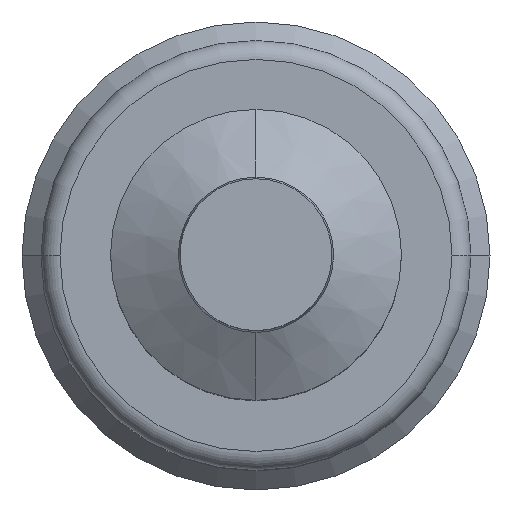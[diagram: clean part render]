
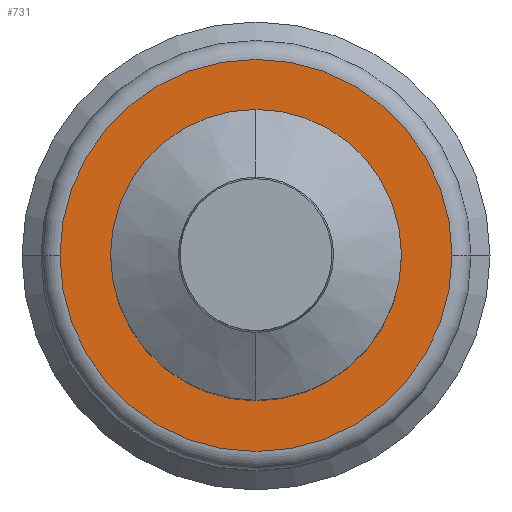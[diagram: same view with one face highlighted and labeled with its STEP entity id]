
A CAD part, top view. The second image highlights one B-rep face of the part: STEP entity #731.
In plain terms, the highlighted planar face has unit normal (0, 0, 1).
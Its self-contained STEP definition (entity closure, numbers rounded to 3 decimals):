
#217 = EDGE_CURVE ( 'NONE', #10577, #10574, #5698, .T. ) ;
#274 = AXIS2_PLACEMENT_3D ( 'NONE', #9819, #9821, #9820 ) ;
#431 = DIRECTION ( 'NONE',  ( 0., 0., -1. ) ) ;
#432 = CARTESIAN_POINT ( 'NONE',  ( -31., 0., 98. ) ) ;
#447 = DIRECTION ( 'NONE',  ( -1., 0., 0. ) ) ;
#459 = PLANE ( 'NONE',  #6001 ) ;
#731 = ADVANCED_FACE ( 'NONE', ( #5241, #5242 ), #459, .F. ) ;
#1618 = CARTESIAN_POINT ( 'NONE',  ( 0., 0., 98. ) ) ;
#1619 = DIRECTION ( 'NONE',  ( 0., 0., 1. ) ) ;
#1620 = DIRECTION ( 'NONE',  ( 1., 0., 0. ) ) ;
#1625 = CARTESIAN_POINT ( 'NONE',  ( 0., 0., 98. ) ) ;
#1626 = DIRECTION ( 'NONE',  ( 0., 0., 1. ) ) ;
#1627 = DIRECTION ( 'NONE',  ( 1., 0., 0. ) ) ;
#1649 = CARTESIAN_POINT ( 'NONE',  ( 0., 0., 98. ) ) ;
#1650 = DIRECTION ( 'NONE',  ( 0., 0., 1. ) ) ;
#1651 = DIRECTION ( 'NONE',  ( 1., 0., 0. ) ) ;
#2127 = CIRCLE ( 'NONE', #8186, 23. ) ;
#2131 = CIRCLE ( 'NONE', #8187, 23. ) ;
#2139 = CIRCLE ( 'NONE', #8195, 31. ) ;
#5241 = FACE_BOUND ( 'NONE', #7653, .T. ) ;
#5242 = FACE_OUTER_BOUND ( 'NONE', #7654, .T. ) ;
#5698 = CIRCLE ( 'NONE', #274, 31. ) ;
#5810 = EDGE_CURVE ( 'NONE', #10405, #10404, #2127, .T. ) ;
#5813 = EDGE_CURVE ( 'NONE', #10404, #10405, #2131, .T. ) ;
#5821 = EDGE_CURVE ( 'NONE', #10574, #10577, #2139, .T. ) ;
#6001 = AXIS2_PLACEMENT_3D ( 'NONE', #432, #431, #447 ) ;
#6614 = CARTESIAN_POINT ( 'NONE',  ( 0., -23., 98. ) ) ;
#6615 = CARTESIAN_POINT ( 'NONE',  ( 0., 23., 98. ) ) ;
#6701 = CARTESIAN_POINT ( 'NONE',  ( -31., 0., 98. ) ) ;
#6704 = CARTESIAN_POINT ( 'NONE',  ( 31., 0., 98. ) ) ;
#7519 = ORIENTED_EDGE ( 'NONE', *, *, #5810, .F. ) ;
#7521 = ORIENTED_EDGE ( 'NONE', *, *, #5813, .F. ) ;
#7524 = ORIENTED_EDGE ( 'NONE', *, *, #217, .T. ) ;
#7526 = ORIENTED_EDGE ( 'NONE', *, *, #5821, .T. ) ;
#7653 = EDGE_LOOP ( 'NONE', ( #7519, #7521 ) ) ;
#7654 = EDGE_LOOP ( 'NONE', ( #7524, #7526 ) ) ;
#8186 = AXIS2_PLACEMENT_3D ( 'NONE', #1618, #1619, #1620 ) ;
#8187 = AXIS2_PLACEMENT_3D ( 'NONE', #1625, #1626, #1627 ) ;
#8195 = AXIS2_PLACEMENT_3D ( 'NONE', #1649, #1650, #1651 ) ;
#9819 = CARTESIAN_POINT ( 'NONE',  ( 0., 0., 98. ) ) ;
#9820 = DIRECTION ( 'NONE',  ( 1., 0., 0. ) ) ;
#9821 = DIRECTION ( 'NONE',  ( 0., 0., 1. ) ) ;
#10404 = VERTEX_POINT ( 'NONE', #6614 ) ;
#10405 = VERTEX_POINT ( 'NONE', #6615 ) ;
#10574 = VERTEX_POINT ( 'NONE', #6701 ) ;
#10577 = VERTEX_POINT ( 'NONE', #6704 ) ;
